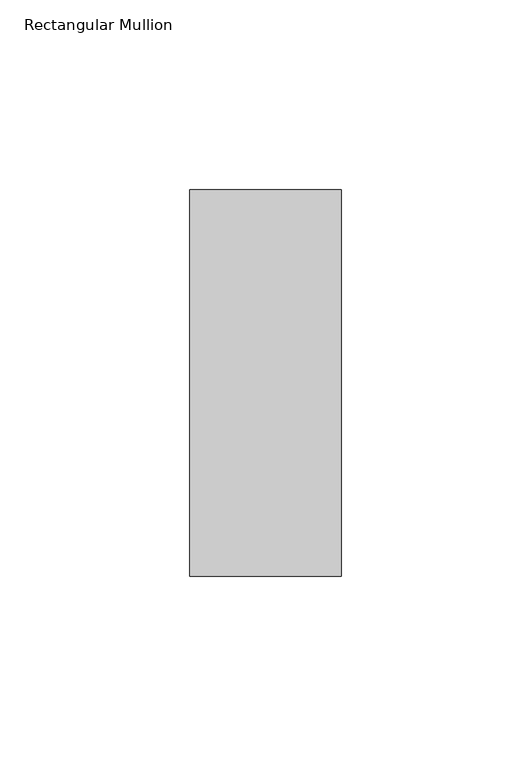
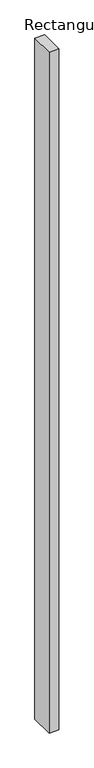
"""IFC4 building model written with IfcOpenShell, lengths in millimetres: member geometry, Rectangular Mullion : RSen_21_CWM_support profile - 40x102 - left_gen_duco projects."""

import ifcopenshell
import ifcopenshell.guid

model = None  # the IFC model being written
_history = None  # IfcOwnerHistory: only IFC2X3 demands one
_inside = {}  # id of a spatial element -> (the spatial element, [elements in it])
_under = {}  # id of a project, library or spatial element -> (it, [spatial elements below it])
_declared = {}  # id of a project -> (the project, [libraries it declares])
_typed = {}  # id of a type object -> (the type object, [elements of that type])
_made_of = {}  # id of a material, layer set ... -> (it, [elements and type objects made of it])


def new_model(schema):
    """Start an empty IFC model of exactly this schema.

    Asked for "IFC4X3", IfcOpenShell would pick the latest addendum, in which some entities
    have other attributes; the version numbers below select the first issue.
    IFC2X3 requires an IfcOwnerHistory on every rooted entity: one is made here for all.
    """
    global model, _history
    if schema == "IFC4X3":
        model = ifcopenshell.file(schema_version=(4, 3, 0, 0))
    else:
        model = ifcopenshell.file(schema=schema)
    _inside.clear()
    _under.clear()
    _declared.clear()
    _typed.clear()
    _made_of.clear()
    _history = None
    if model.schema == "IFC2X3":
        org = make("IfcOrganization", Name="unknown")
        user = make(
            "IfcPersonAndOrganization",
            ThePerson=make("IfcPerson", FamilyName="unknown"),
            TheOrganization=org,
        )
        app = make(
            "IfcApplication",
            ApplicationDeveloper=org,
            Version="unknown",
            ApplicationFullName="unknown",
            ApplicationIdentifier="unknown",
        )
        _history = make(
            "IfcOwnerHistory",
            OwningUser=user,
            OwningApplication=app,
            ChangeAction="ADDED",
            CreationDate=0,
        )
    return model


def make(cls, **values):
    """One entity of the class cls with the attributes given. An attribute that is None is left unset."""
    return model.create_entity(
        cls, **{name: value for name, value in values.items() if value is not None}
    )


def rooted(cls, **values):
    """An entity with a GlobalId (a new one), such as an element, a storey or a relation."""
    return make(cls, GlobalId=ifcopenshell.guid.new(), OwnerHistory=_history, **values)


def si_unit(unit_type, name, prefix=None):
    """IfcSIUnit, for example si_unit("LENGTHUNIT", "METRE", prefix="MILLI")."""
    return make("IfcSIUnit", UnitType=unit_type, Prefix=prefix, Name=name)


def assignment(units):
    """IfcUnitAssignment: the units of a project."""
    return None if units is None else make("IfcUnitAssignment", Units=units)


def point(xyz):
    """IfcCartesianPoint."""
    return None if xyz is None else make("IfcCartesianPoint", Coordinates=xyz)


def direction(xyz):
    """IfcDirection."""
    return None if xyz is None else make("IfcDirection", DirectionRatios=xyz)


def frame(location, z_axis=None, x_axis=None):
    """IfcAxis2Placement3D, a coordinate frame: its origin and axes. An axis left out is left unset."""
    return make(
        "IfcAxis2Placement3D",
        Location=point(location),
        Axis=direction(z_axis),
        RefDirection=direction(x_axis),
    )


def origin():
    """The frame at (0, 0, 0) with its axes left unset."""
    return frame((0.0, 0.0, 0.0))


def place(relative_to, where):
    """IfcLocalPlacement: puts the frame where relative to a parent placement (None: the world)."""
    return make(
        "IfcLocalPlacement", PlacementRelTo=relative_to, RelativePlacement=where
    )


def context(
    kind, dimensions, precision=None, world=None, true_north=None, identifier=None
):
    """IfcGeometricRepresentationContext, for example the 3D "Model" context."""
    return make(
        "IfcGeometricRepresentationContext",
        ContextIdentifier=identifier,
        ContextType=kind,
        CoordinateSpaceDimension=dimensions,
        Precision=precision,
        WorldCoordinateSystem=world,
        TrueNorth=true_north,
    )


def project(units=None, contexts=None):
    """IfcProject with its units and contexts."""
    return rooted(
        "IfcProject",
        Name="project",
        RepresentationContexts=contexts,
        UnitsInContext=assignment(units),
    )


def spatial(cls, under=None, at=None, **own):
    """A site, building, storey or space (cls), placed at a placement, below another one or the project."""
    s = rooted(cls, ObjectPlacement=at, **own)
    if under is not None:
        _under.setdefault(under.id(), (under, []))[1].append(s)
    return s


def polyline(points):
    """IfcPolyline through the points."""
    return make("IfcPolyline", Points=[point(p) for p in points])


def outline(outer, holes=None, kind="AREA"):
    """IfcArbitraryClosedProfileDef: a profile drawn as a closed curve; with holes, ...WithVoids."""
    if holes is None:
        return make("IfcArbitraryClosedProfileDef", ProfileType=kind, OuterCurve=outer)
    return make(
        "IfcArbitraryProfileDefWithVoids",
        ProfileType=kind,
        OuterCurve=outer,
        InnerCurves=holes,
    )


def extrude(swept, where, along, depth):
    """IfcExtrudedAreaSolid: the profile swept, set in the frame where, extruded along a direction by depth."""
    return make(
        "IfcExtrudedAreaSolid",
        SweptArea=swept,
        Position=where,
        ExtrudedDirection=direction(along),
        Depth=depth,
    )


def shape(context_of_items, identifier, shape_type, items):
    """IfcShapeRepresentation: the items that make up one representation, for example the "Body"."""
    return make(
        "IfcShapeRepresentation",
        ContextOfItems=context_of_items,
        RepresentationIdentifier=identifier,
        RepresentationType=shape_type,
        Items=items,
    )


def source(mapping_origin, context_of_items, identifier, shape_type, items):
    """IfcRepresentationMap: a shape defined once, which mapped items show again and again."""
    return make(
        "IfcRepresentationMap",
        MappingOrigin=mapping_origin,
        MappedRepresentation=shape(context_of_items, identifier, shape_type, items),
    )


def transform(
    local_origin,
    x_axis=None,
    y_axis=None,
    z_axis=None,
    scale=None,
    scale2=None,
    scale3=None,
    uniform=True,
):
    """IfcCartesianTransformationOperator3D, or its non-uniform kind. x_axis, y_axis, z_axis: its Axis1, 2, 3."""
    if uniform:
        return make(
            "IfcCartesianTransformationOperator3D",
            Axis1=direction(x_axis),
            Axis2=direction(y_axis),
            LocalOrigin=point(local_origin),
            Scale=scale,
            Axis3=direction(z_axis),
        )
    return make(
        "IfcCartesianTransformationOperator3DnonUniform",
        Axis1=direction(x_axis),
        Axis2=direction(y_axis),
        LocalOrigin=point(local_origin),
        Scale=scale,
        Axis3=direction(z_axis),
        Scale2=scale2,
        Scale3=scale3,
    )


def mapped(mapping_source, mapping_target):
    """IfcMappedItem: shows the shape of a source again, moved by a transform."""
    return make(
        "IfcMappedItem", MappingSource=mapping_source, MappingTarget=mapping_target
    )


def made_of(thing, what):
    """Note that an element or type object is made of a material, layer set ...; save() writes the relation."""
    if what is not None:
        _made_of.setdefault(what.id(), (what, []))[1].append(thing)
    return thing


def element(
    cls,
    number,
    at=None,
    inside=None,
    cuts=None,
    type_object=None,
    material=None,
    context=None,
    identifier="Body",
    shape_type=None,
    held_by="IfcProductDefinitionShape",
    body=None,
    shapes=None,
    **own,
):
    """One element of the class cls, such as IfcWall. Its Tag is "e" and its number.

    at: its placement. inside: the storey or other place that contains it. cuts: it is an
    opening in that element (IfcRelVoidsElement). A single representation is given by context,
    identifier, shape_type and body (its items); several are given by shapes. held_by: the class
    of the entity that holds the representations. save() writes the other relations.
    """
    e = rooted(cls, Tag="e%d" % number, ObjectPlacement=at, **own)
    if body is not None:
        shapes = [shape(context, identifier, shape_type, body)]
    if shapes is not None:
        e.Representation = make(held_by, Representations=shapes)
    if inside is not None:
        _inside.setdefault(inside.id(), (inside, []))[1].append(e)
    if cuts is not None:
        rooted(
            "IfcRelVoidsElement", RelatingBuildingElement=cuts, RelatedOpeningElement=e
        )
    if type_object is not None:
        _typed.setdefault(type_object.id(), (type_object, []))[1].append(e)
    return made_of(e, material)


def aggregate(whole, parts):
    """IfcRelAggregates: a whole, such as a stair, and the parts it consists of."""
    return rooted("IfcRelAggregates", RelatingObject=whole, RelatedObjects=parts)


def save(model, path):
    """Write the relations noted so far, then the file.

    IfcRelAggregates (storeys below a building ...), IfcRelContainedInSpatialStructure (elements
    in a storey), IfcRelDefinesByType, IfcRelAssociatesMaterial and IfcRelDeclares: one each for
    every whole, place, type object, material and project.
    """
    for whole, parts in _under.values():
        aggregate(whole, parts)
    for where, things in _inside.values():
        rooted(
            "IfcRelContainedInSpatialStructure",
            RelatedElements=things,
            RelatingStructure=where,
        )
    for kind, things in _typed.values():
        rooted("IfcRelDefinesByType", RelatedObjects=things, RelatingType=kind)
    for what, things in _made_of.values():
        rooted("IfcRelAssociatesMaterial", RelatedObjects=things, RelatingMaterial=what)
    for by, libraries in _declared.values():
        rooted("IfcRelDeclares", RelatingContext=by, RelatedDefinitions=libraries)
    model.write(path)


def rectangular_mullion_76a5abe1(model_context):
    return source(origin(), model_context, "Body", "SweptSolid", [
        extrude(outline(polyline([(-50.0, 1.0), (-50.0, -101.0), (-90.0, -101.0), (-90.0, 1.0), (-50.0, 1.0)])), frame((0.0, 0.0, -3000.0), z_axis=(0.0, 0.0, 1.0), x_axis=(1.0, 0.0, 0.0)), (0.0, 0.0, 1.0), 3000.0),
    ])


if __name__ == "__main__":
    model = new_model("IFC4")
    model_context = context("Model", 3, world=origin())
    ifc_project = project(units=[si_unit("LENGTHUNIT", "METRE", prefix="MILLI")], contexts=[model_context])
    site = spatial("IfcSite", under=ifc_project)
    building = spatial("IfcBuilding", under=site)
    placement = place(None, origin())
    rectangular_mullion_shape = rectangular_mullion_76a5abe1(model_context)
    element("IfcMember", 1, ObjectType="Rectangular Mullion : RSen_21_CWM_support profile - 40x102 - left_gen_duco projects", at=placement, inside=building, context=model_context, shape_type="MappedRepresentation", body=[
        mapped(rectangular_mullion_shape, transform((0.0, 0.0, 0.0), x_axis=(1.0, 0.0, 0.0), y_axis=(0.0, 1.0, 0.0), z_axis=(0.0, 0.0, 1.0))),
    ])
    save(model, "model.ifc")
